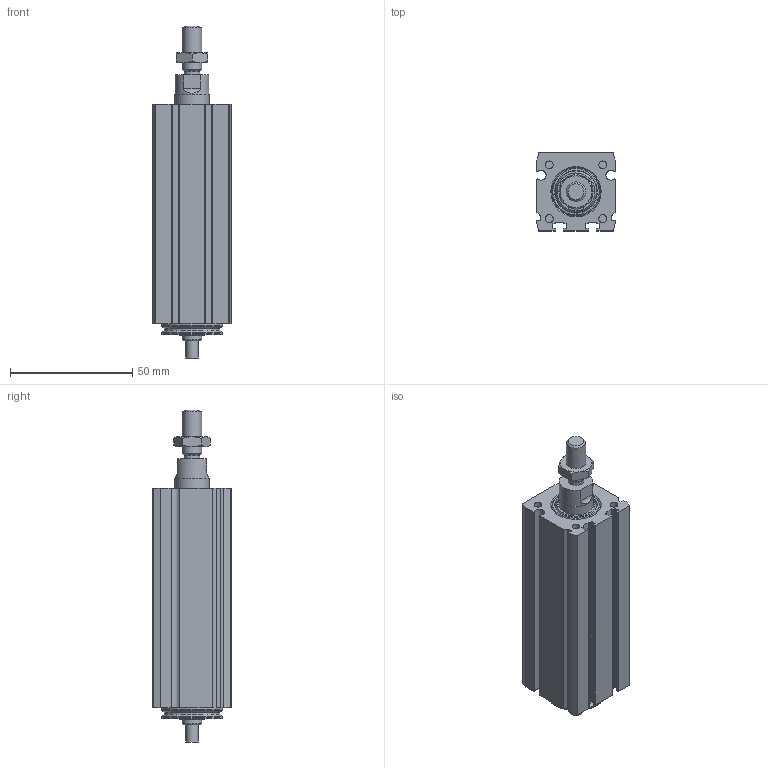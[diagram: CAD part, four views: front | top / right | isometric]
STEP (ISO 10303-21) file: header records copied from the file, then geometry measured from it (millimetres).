
FILE_DESCRIPTION(/* description */ ('STEP AP214'),/* implementation_level */ '2;1');
FILE_NAME(/* name */ 'MCE 32 0802 25 0(0)',/* time_stamp */ '2023-10-05T14:05:03+02:00',/* author */ ('License CC BY-ND 4.0'),/* organization */ ('CADENAS'),/* preprocessor_version */ 'ST-DEVELOPER v19.3',/* originating_system */ 'PARTsolutions',/* authorisation */ ' ');
FILE_SCHEMA (('AUTOMOTIVE_DESIGN {1 0 10303 214 3 1 1}'));
Length unit declared in the file: millimetre
Products named in the file (4): MCE 32 0802 25  0(0); 32_nut; 32(250)_rod; 32(25)_msc
Assembly tree (3 placements, depth 2):
  MCE 32 0802 25  0(0)
    32_nut
    32(250)_rod
    32(25)_msc
Bounding box: 32 x 32 x 136 mm (x, y, z)
Volume: 81927.4 mm3; surface area: 32097.9 mm2
Topology: 3 solids, 3 shells, 205 faces, 503 edges, 326 vertices
Faces by surface type: cylinder 89, plane 88, cone 23, torus 5
Full cylindrical faces by diameter (mm): 2.459 x4, 3.242 x4, 5 x1, 6.5 x1, 6.647 x1, 8 x2, 10 x1, 13.8 x1, 14 x2, 17.46 x1, 19.5 x1, 24.5 x2, 25 x2
Entity records: 6017 total; most frequent: CARTESIAN_POINT 1087, DIRECTION 1064, ORIENTED_EDGE 924, EDGE_CURVE 462, AXIS2_PLACEMENT_3D 419, VERTEX_POINT 324, EDGE_LOOP 268, FACE_BOUND 268
